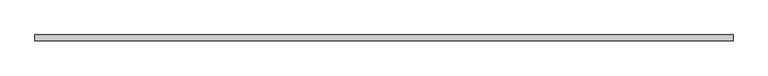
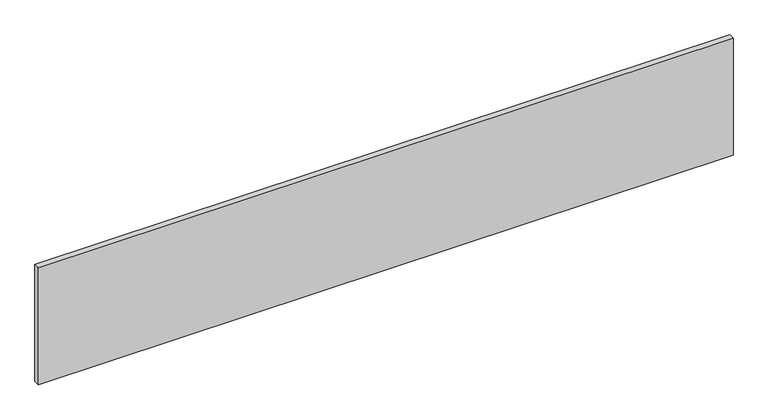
"""IFC4 building model written with IfcOpenShell, lengths in millimetres: plate geometry, Системная панель : С остеклением."""

from ifc_helpers import new_model, si_unit, origin, origin_with_axes, place, context, project, spatial, polyline, outline, extrude, source, transform, mapped, element, save


def plate_494228cc(model_context):
    return source(origin(), model_context, "Body", "SweptSolid", [
        extrude(outline(polyline([(1475.0, -49.5), (-1475.0, -49.5), (-1475.0, -24.5), (1475.0, -24.5), (1475.0, -49.5)])), origin_with_axes(), (0.0, 0.0, 1.0), 525.0),
    ])


if __name__ == "__main__":
    model = new_model("IFC4")
    model_context = context("Model", 3, world=origin())
    ifc_project = project(units=[si_unit("LENGTHUNIT", "METRE", prefix="MILLI")], contexts=[model_context])
    site = spatial("IfcSite", under=ifc_project)
    building = spatial("IfcBuilding", under=site)
    placement = place(None, origin())
    plate_shape = plate_494228cc(model_context)
    element("IfcPlate", 1, ObjectType="Системная панель : С остеклением", at=placement, inside=building, context=model_context, shape_type="MappedRepresentation", body=[
        mapped(plate_shape, transform((0.0, 0.0, 0.0), x_axis=(1.0, 0.0, 0.0), y_axis=(0.0, 1.0, 0.0), z_axis=(0.0, 0.0, 1.0))),
    ])
    save(model, "model.ifc")
